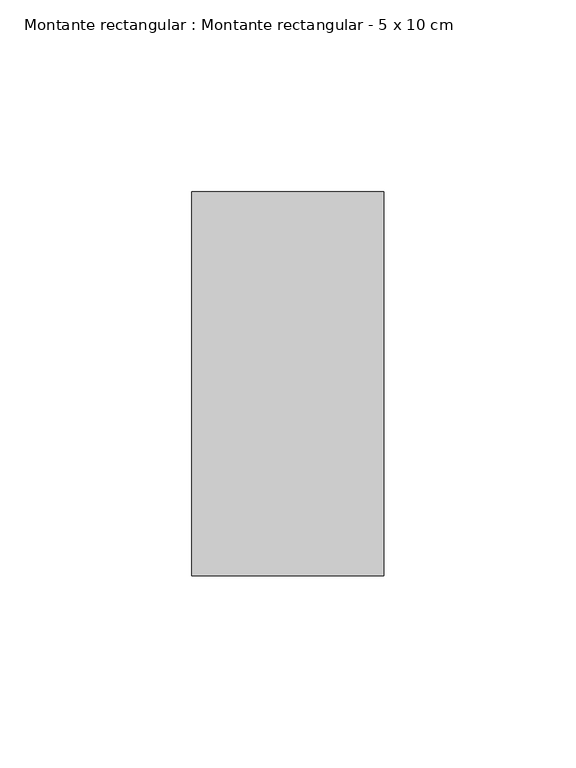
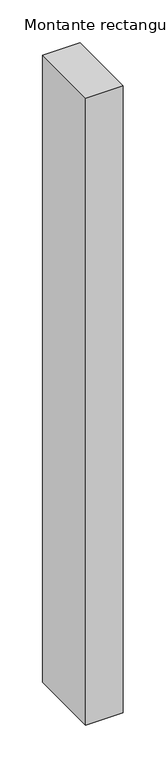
"""IFC4 building model written with IfcOpenShell, lengths in millimetres: member geometry, Montante rectangular : Montante rectangular - 5 x 10 cm."""

from ifc_helpers import new_model, si_unit, frame, origin, place, context, project, spatial, polyline, outline, extrude, source, transform, mapped, element, save


def montante_rectangular_montante_rectangular_5_x_10_cm_ec694fb9(model_context):
    return source(origin(), model_context, "Body", "SweptSolid", [
        extrude(outline(polyline([(0.0, 50.0), (0.0, -50.0), (-50.0, -50.0), (-50.0, 50.0), (0.0, 50.0)])), frame((0.0, 0.0, -890.0), z_axis=(0.0, 0.0, 1.0), x_axis=(1.0, 0.0, 0.0)), (0.0, 0.0, 1.0), 890.0),
    ])


if __name__ == "__main__":
    model = new_model("IFC4")
    model_context = context("Model", 3, world=origin())
    ifc_project = project(units=[si_unit("LENGTHUNIT", "METRE", prefix="MILLI")], contexts=[model_context])
    site = spatial("IfcSite", under=ifc_project)
    building = spatial("IfcBuilding", under=site)
    placement = place(None, origin())
    montante_rectangular_montante_rectangular_5_x_10_cm_shape = montante_rectangular_montante_rectangular_5_x_10_cm_ec694fb9(model_context)
    element("IfcMember", 1, ObjectType="Montante rectangular : Montante rectangular - 5 x 10 cm", at=placement, inside=building, context=model_context, shape_type="MappedRepresentation", body=[
        mapped(montante_rectangular_montante_rectangular_5_x_10_cm_shape, transform((0.0, 0.0, 0.0), x_axis=(1.0, 0.0, 0.0), y_axis=(0.0, 1.0, 0.0), z_axis=(0.0, 0.0, 1.0))),
    ])
    save(model, "model.ifc")
